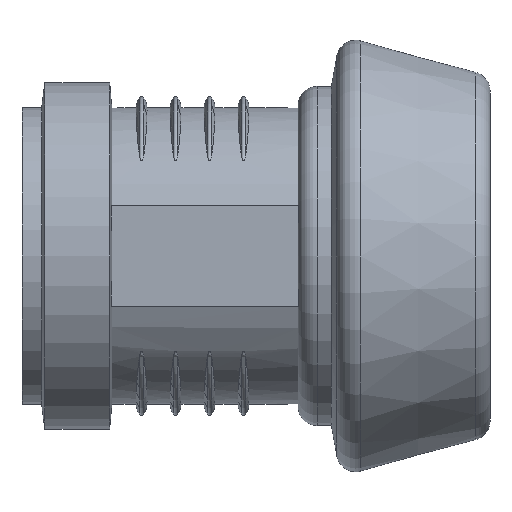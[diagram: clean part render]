
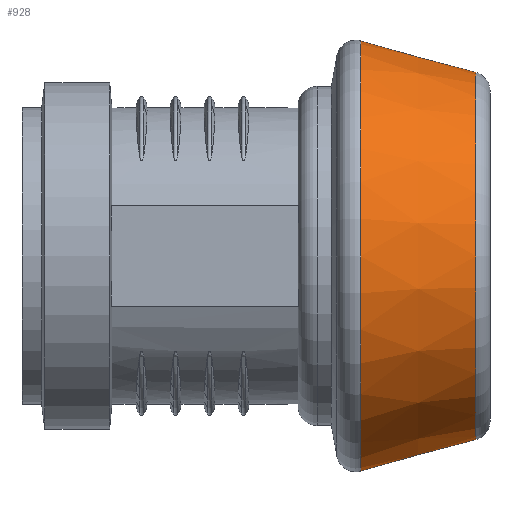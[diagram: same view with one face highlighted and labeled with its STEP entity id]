
A CAD part, front view. The second image highlights one B-rep face of the part: STEP entity #928.
In plain terms, the highlighted conical face has half-angle 15.25 degrees and reference radius 36.682 mm.
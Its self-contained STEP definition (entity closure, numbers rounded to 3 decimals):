
#107=CONICAL_SURFACE($,#1001,36.682,15.25);
#162=FACE_BOUND($,#267,.T.);
#204=FACE_OUTER_BOUND($,#266,.T.);
#266=EDGE_LOOP($,(#624));
#267=EDGE_LOOP($,(#625));
#358=CIRCLE($,#1000,39.577);
#359=CIRCLE($,#1002,33.787);
#406=VERTEX_POINT($,#1362);
#407=VERTEX_POINT($,#1365);
#500=EDGE_CURVE($,#406,#406,#358,.T.);
#501=EDGE_CURVE($,#407,#407,#359,.T.);
#624=ORIENTED_EDGE($,*,*,#501,.F.);
#625=ORIENTED_EDGE($,*,*,#500,.T.);
#928=ADVANCED_FACE($,(#204,#162),#107,.T.);
#1000=AXIS2_PLACEMENT_3D($,#1363,#1127,#1128);
#1001=AXIS2_PLACEMENT_3D($,#1364,#1129,#1130);
#1002=AXIS2_PLACEMENT_3D($,#1366,#1131,#1132);
#1127=DIRECTION('center_axis',(1.,0.,0.));
#1128=DIRECTION('ref_axis',(0.,1.,0.));
#1129=DIRECTION('center_axis',(-1.,0.,0.));
#1130=DIRECTION('ref_axis',(0.,1.,0.));
#1131=DIRECTION('center_axis',(1.,0.,0.));
#1132=DIRECTION('ref_axis',(0.,1.,0.));
#1362=CARTESIAN_POINT('',(11.486,39.577,0.));
#1363=CARTESIAN_POINT('Origin',(11.486,0.,0.));
#1364=CARTESIAN_POINT('Origin',(22.103,0.,0.));
#1365=CARTESIAN_POINT('',(32.721,33.787,0.));
#1366=CARTESIAN_POINT('Origin',(32.721,0.,0.));
